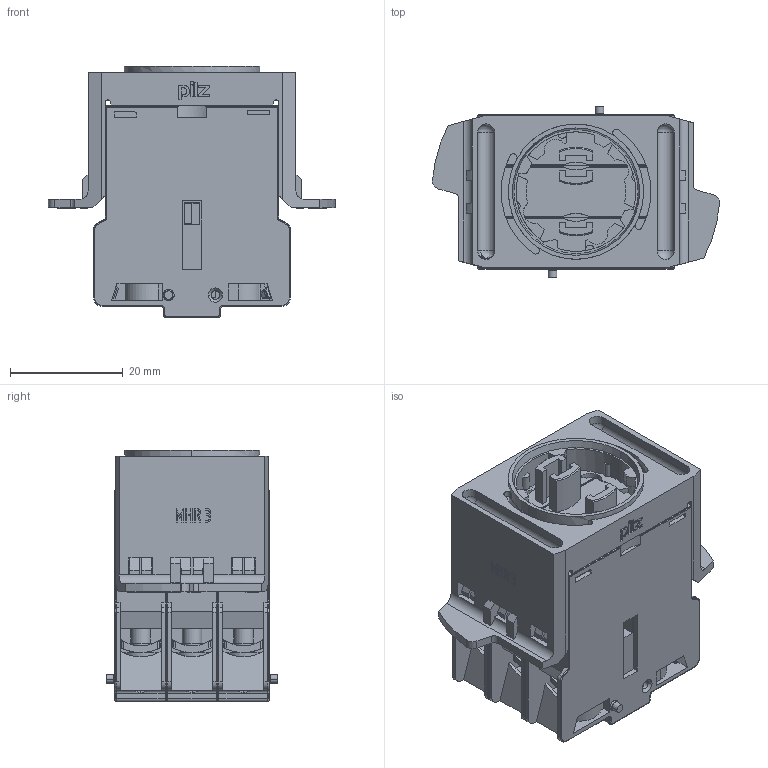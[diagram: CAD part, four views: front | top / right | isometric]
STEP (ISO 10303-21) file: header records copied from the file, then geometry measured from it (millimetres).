
FILE_DESCRIPTION((''),'2;1');
FILE_NAME('2011763_ASM','2012-12-12T',('rink'),(''),'PRO/ENGINEER BY PARAMETRIC TECHNOLOGY CORPORATION, 2011040','PRO/ENGINEER BY PARAMETRIC TECHNOLOGY CORPORATION, 2011040','');
FILE_SCHEMA(('AUTOMOTIVE_DESIGN_CC2 { 1 2 10303 214 -1 1 5 2 }'));
Length unit declared in the file: millimetre
Products named in the file (3): 2011624; 2011762; 2011763_ASM
Assembly tree (4 placements, depth 2):
  2011763_ASM
    2011624
    2011762  x3
Bounding box: 50.84 x 30.3 x 44.5 mm (x, y, z)
Volume: 31695.3 mm3; surface area: 23928.1 mm2
Topology: 10 solids, 10 shells, 1750 faces, 4762 edges, 3069 vertices
Faces by surface type: plane 1008, cylinder 603, cone 63, torus 54, sphere 22
Entity records: 36258 total; most frequent: CARTESIAN_POINT 5728, ORIENTED_EDGE 4888, DIRECTION 4713, PRESENTATION_STYLE_ASSIGNMENT 2462, STYLED_ITEM 2457, CURVE_STYLE 2453, EDGE_CURVE 2444, VECTOR 1685
